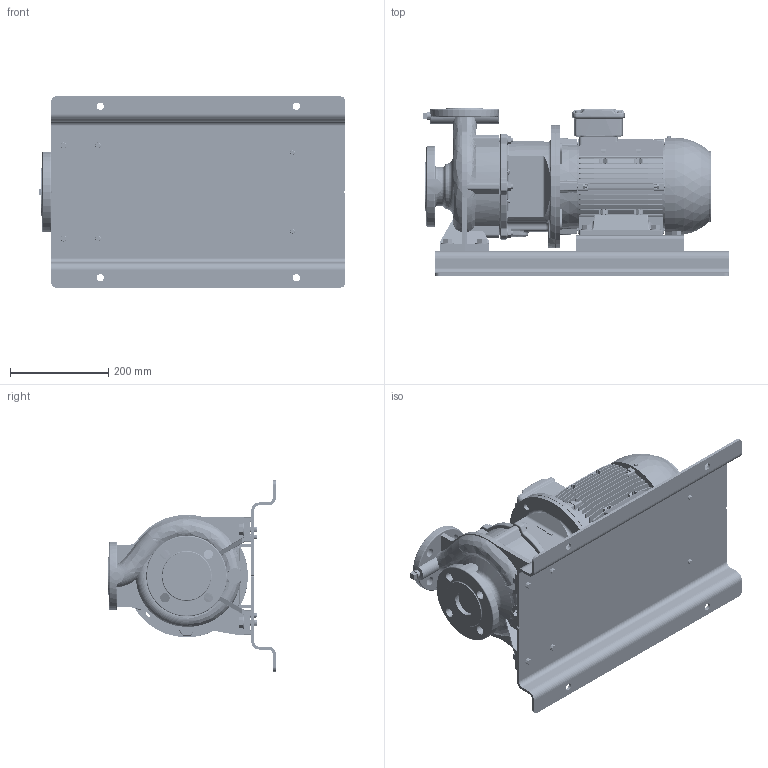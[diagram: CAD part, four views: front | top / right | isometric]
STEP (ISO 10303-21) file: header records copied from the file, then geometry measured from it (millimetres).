
FILE_DESCRIPTION (( 'STEP AP214' ), '1' );
FILE_NAME ('GSD2 32-160_3.0_(100L)_W21_BP.STEP', '2024-03-18T05:27:04', ( '' ), ( '' ), 'SwSTEP 2.0', 'SolidWorks 2019', '' );
FILE_SCHEMA (( 'AUTOMOTIVE_DESIGN' ));
Length unit declared in the file: millimetre
Products named in the file (10): 32-160-100L; Parametric bolt_SFT-A259B; Parametric Flat Washer_M10; GSD2  32-160_3.0_(100L)_W21_BP; N3S3 GSDA-331 F1-1832903-00; Parametric bolt_SFT-A299B; Parametric Flat Washer_M12; Parametric bolt_SFT-A253B; 140 x 32 - 271472023; 100L ALIE3_W21T_B35
Assembly tree (25 placements, depth 2):
  GSD2  32-160_3.0_(100L)_W21_BP
    32-160-100L
    100L ALIE3_W21T_B35
    N3S3 GSDA-331 F1-1832903-00
    140 x 32 - 271472023  x2
    Parametric bolt_SFT-A299B  x4
    Parametric bolt_SFT-A253B  x4
    Parametric bolt_SFT-A259B  x2
    Parametric Flat Washer_M12  x4
    Parametric Flat Washer_M10  x6
Bounding box: 625.65 x 342 x 390 mm (x, y, z)
Volume: 16077780.2 mm3; surface area: 1850160 mm2
Topology: 43 solids, 43 shells, 4260 faces, 11201 edges, 7259 vertices
Faces by surface type: plane 2350, cylinder 1127, torus 329, bspline 235, cone 201, sphere 18
Entity records: 192059 total; most frequent: CARTESIAN_POINT 87561, ORIENTED_EDGE 20178, DIRECTION 18094, EDGE_CURVE 10089, VERTEX_POINT 6549, LINE 6288, VECTOR 6288, AXIS2_PLACEMENT_3D 5903
